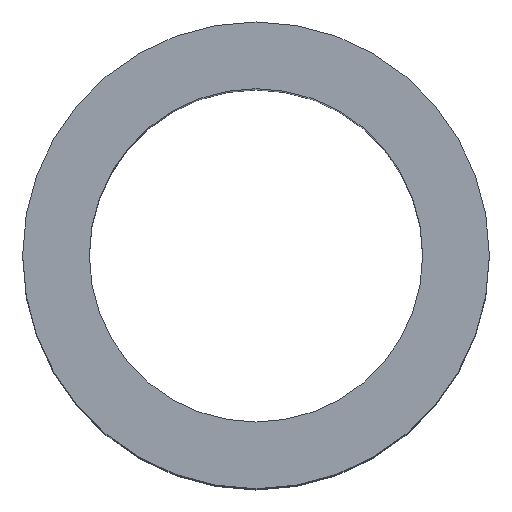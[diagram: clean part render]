
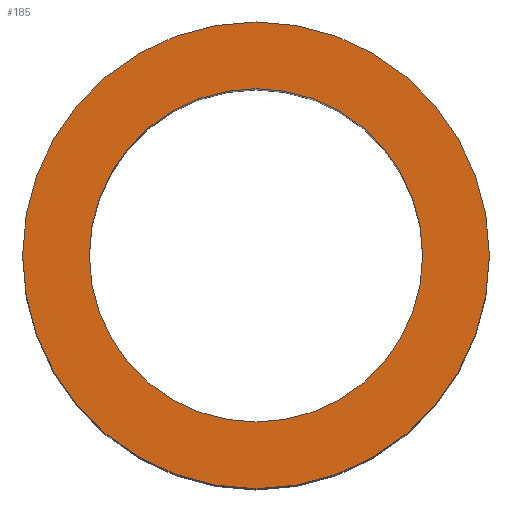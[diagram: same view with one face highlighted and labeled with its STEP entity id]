
A CAD part, top view. The second image highlights one B-rep face of the part: STEP entity #185.
In plain terms, the highlighted planar face has unit normal (0, 0, 1).
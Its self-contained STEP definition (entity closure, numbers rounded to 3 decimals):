
#185=ADVANCED_FACE('',(#211,#212),#209,.T.);
#209=PLANE('',#442);
#211=FACE_BOUND('',#215,.T.);
#212=FACE_BOUND('',#216,.T.);
#215=EDGE_LOOP('',(#241,#242));
#216=EDGE_LOOP('',(#243,#244));
#241=ORIENTED_EDGE('',*,*,#363,.T.);
#242=ORIENTED_EDGE('',*,*,#364,.T.);
#243=ORIENTED_EDGE('',*,*,#365,.F.);
#244=ORIENTED_EDGE('',*,*,#366,.F.);
#337=VERTEX_POINT('',#614);
#338=VERTEX_POINT('',#615);
#339=VERTEX_POINT('',#618);
#340=VERTEX_POINT('',#619);
#363=EDGE_CURVE('',#337,#338,#411,.T.);
#364=EDGE_CURVE('',#338,#337,#412,.T.);
#365=EDGE_CURVE('',#339,#340,#413,.T.);
#366=EDGE_CURVE('',#340,#339,#414,.T.);
#411=CIRCLE('',#438,7.);
#412=CIRCLE('',#439,7.);
#413=CIRCLE('',#440,5.);
#414=CIRCLE('',#441,5.);
#438=AXIS2_PLACEMENT_3D('',#613,#490,#491);
#439=AXIS2_PLACEMENT_3D('',#616,#492,#493);
#440=AXIS2_PLACEMENT_3D('',#617,#494,#495);
#441=AXIS2_PLACEMENT_3D('',#620,#496,#497);
#442=AXIS2_PLACEMENT_3D('',#621,#498,#499);
#490=DIRECTION('',(0.,0.,1.));
#491=DIRECTION('',(0.,-1.,0.));
#492=DIRECTION('',(0.,0.,1.));
#493=DIRECTION('',(0.,1.,0.));
#494=DIRECTION('',(0.,0.,1.));
#495=DIRECTION('',(0.,1.,0.));
#496=DIRECTION('',(0.,0.,1.));
#497=DIRECTION('',(0.,-1.,0.));
#498=DIRECTION('',(0.,0.,1.));
#499=DIRECTION('',(0.,-1.,0.));
#613=CARTESIAN_POINT('',(0.,0.,22.));
#614=CARTESIAN_POINT('',(7.,0.,22.));
#615=CARTESIAN_POINT('',(-7.,0.,22.));
#616=CARTESIAN_POINT('',(0.,0.,22.));
#617=CARTESIAN_POINT('',(0.,0.,22.));
#618=CARTESIAN_POINT('',(-5.,0.,22.));
#619=CARTESIAN_POINT('',(5.,0.,22.));
#620=CARTESIAN_POINT('',(0.,0.,22.));
#621=CARTESIAN_POINT('',(0.,0.,22.));
